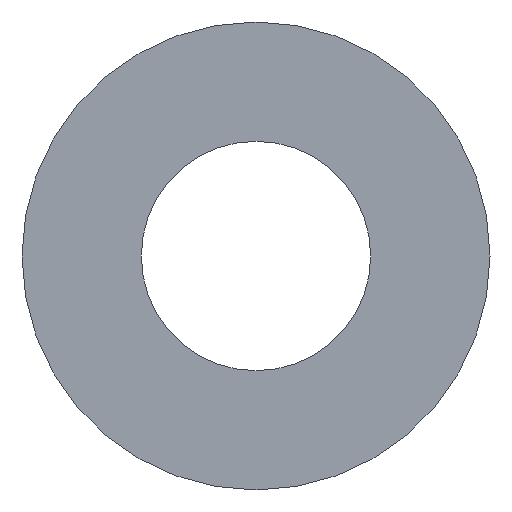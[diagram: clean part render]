
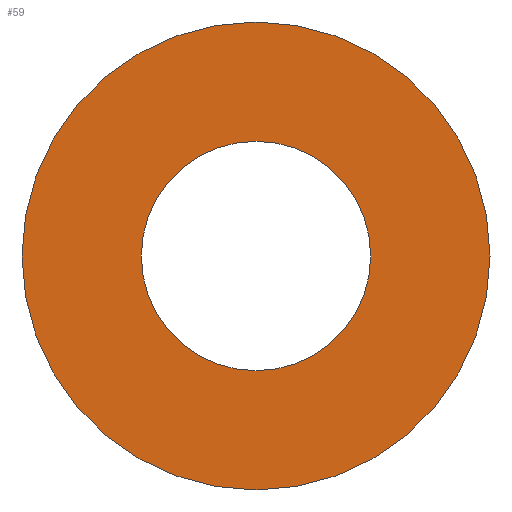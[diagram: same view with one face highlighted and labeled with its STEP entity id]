
A CAD part, left-side view. The second image highlights one B-rep face of the part: STEP entity #59.
In plain terms, the highlighted planar face has unit normal (-1, 0, 0).
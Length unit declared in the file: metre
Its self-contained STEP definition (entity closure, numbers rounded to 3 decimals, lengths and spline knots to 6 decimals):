
#13=PLANE('',#105);
#20=ORIENTED_EDGE('',*,*,#23,.T.);
#21=ORIENTED_EDGE('',*,*,#25,.T.);
#23=EDGE_CURVE('',#27,#27,#31,.T.);
#25=EDGE_CURVE('',#29,#29,#33,.T.);
#27=VERTEX_POINT('',#129);
#29=VERTEX_POINT('',#134);
#31=CIRCLE('',#100,0.0051);
#33=CIRCLE('',#103,0.0025);
#40=EDGE_LOOP('',(#20));
#41=EDGE_LOOP('',(#21));
#48=FACE_BOUND('',#40,.T.);
#49=FACE_BOUND('',#41,.T.);
#59=ADVANCED_FACE('Face appearance 10',(#48,#49),#13,.T.);
#100=AXIS2_PLACEMENT_3D('',#128,#112,#113);
#103=AXIS2_PLACEMENT_3D('',#133,#118,#119);
#105=AXIS2_PLACEMENT_3D('',#136,#122,#123);
#112=DIRECTION('',(-1.,0.,0.));
#113=DIRECTION('',(0.,0.,-1.));
#118=DIRECTION('',(1.,0.,0.));
#119=DIRECTION('',(0.,1.,0.));
#122=DIRECTION('',(-1.,0.,0.));
#123=DIRECTION('',(0.,0.,-1.));
#128=CARTESIAN_POINT('',(-0.075,-0.0103,0.036476));
#129=CARTESIAN_POINT('',(-0.075,-0.0103,0.031376));
#133=CARTESIAN_POINT('',(-0.075,-0.0103,0.036476));
#134=CARTESIAN_POINT('',(-0.075,-0.0078,0.036476));
#136=CARTESIAN_POINT('',(-0.075,-0.0103,0.036476));
